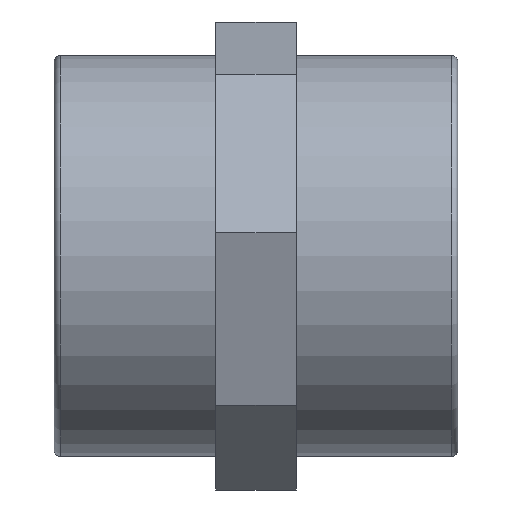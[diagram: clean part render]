
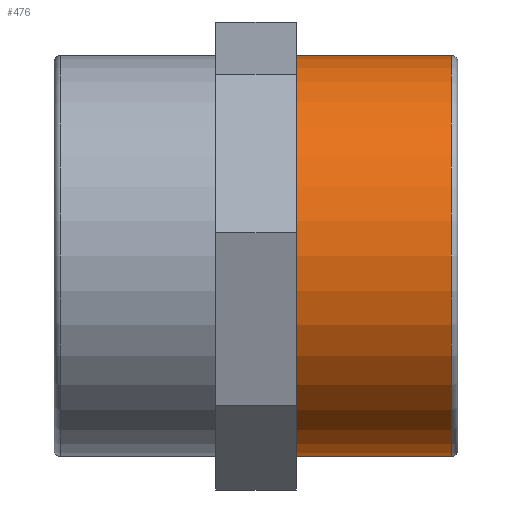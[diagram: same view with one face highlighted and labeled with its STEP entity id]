
A CAD part, front view. The second image highlights one B-rep face of the part: STEP entity #476.
In plain terms, the highlighted cylindrical face has radius 30 mm (diameter 60 mm), a full revolution.
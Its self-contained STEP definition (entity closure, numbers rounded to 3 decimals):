
#46=CYLINDRICAL_SURFACE('',#514,30.);
#55=FACE_BOUND('',#135,.T.);
#72=CIRCLE('',#513,30.);
#73=CIRCLE('',#515,30.);
#99=FACE_OUTER_BOUND('',#134,.T.);
#134=EDGE_LOOP('',(#378));
#135=EDGE_LOOP('',(#379));
#238=VERTEX_POINT('',#716);
#239=VERTEX_POINT('',#719);
#292=EDGE_CURVE('',#238,#238,#72,.T.);
#293=EDGE_CURVE('',#239,#239,#73,.T.);
#378=ORIENTED_EDGE('',*,*,#293,.F.);
#379=ORIENTED_EDGE('',*,*,#292,.T.);
#476=ADVANCED_FACE('',(#99,#55),#46,.T.);
#513=AXIS2_PLACEMENT_3D('',#717,#595,#596);
#514=AXIS2_PLACEMENT_3D('',#718,#597,#598);
#515=AXIS2_PLACEMENT_3D('',#720,#599,#600);
#595=DIRECTION('center_axis',(1.,0.,0.));
#596=DIRECTION('ref_axis',(0.,-1.,0.));
#597=DIRECTION('center_axis',(-1.,0.,0.));
#598=DIRECTION('ref_axis',(0.,-1.,0.));
#599=DIRECTION('center_axis',(1.,0.,0.));
#600=DIRECTION('ref_axis',(0.,1.,0.));
#716=CARTESIAN_POINT('',(36.2,30.,0.));
#717=CARTESIAN_POINT('Origin',(36.2,0.,0.));
#718=CARTESIAN_POINT('Origin',(30.2,0.,0.));
#719=CARTESIAN_POINT('',(59.4,-30.,0.));
#720=CARTESIAN_POINT('Origin',(59.4,0.,0.));
